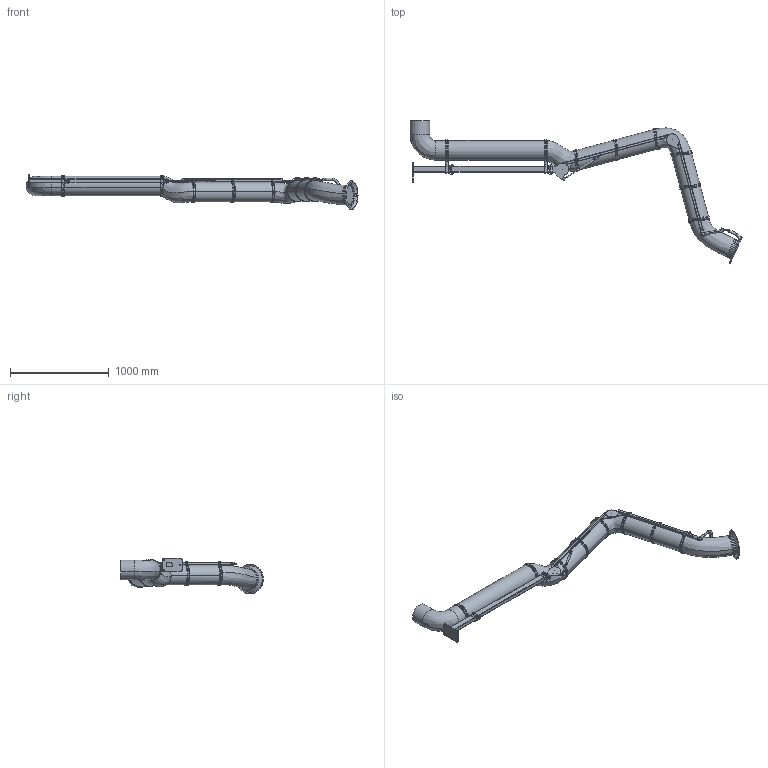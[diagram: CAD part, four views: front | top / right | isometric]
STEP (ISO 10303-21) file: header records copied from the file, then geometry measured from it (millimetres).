
FILE_DESCRIPTION((''),'2;1');
FILE_NAME('PSR_4000-200_EXC','2022-10-04T13:24:03',('Tomas Bellgran'),(''),'CREO PARAMETRIC BY PTC INC, 2018260','CREO PARAMETRIC BY PTC INC, 2018260','');
FILE_SCHEMA(('AUTOMOTIVE_DESIGN { 1 0 10303 214 1 1 1 1 }'));
Length unit declared in the file: millimetre
Products named in the file (34): 141558; 141580; 141581; 122701; 141514; 141560; 141582; 141587; 141524; 121391; 131150_LIGHT; 139383_LIGHT; 131151_LIGHT; 131173_LIGHT; 144356; 141589; 134343_AF0; G_P136_WELD-REF; 141590; 120626; 122750_LIGHT; 122717_LIGHT; 120127_COMPL_LIGHT; 130317; ROD_STAB_8-160-REF; 131095; 130322_AF9; 131145; 147057_EXC; 124460; 107526-11; 121000_LIGHT; 107526-20; PSR_4000-200_EXC
Assembly tree (52 placements, depth 3):
  PSR_4000-200_EXC
    141514
      141558
      141580
      141581
      122701
    141524
      141560
      141582
      141587
    121391  x4
    131150_LIGHT
    131173_LIGHT
      139383_LIGHT
      131151_LIGHT
    144356  x2
    141590
      141589
      134343_AF0
      G_P136_WELD-REF
    120626
    122750_LIGHT
    122717_LIGHT
    120127_COMPL_LIGHT  x2
    130322_AF9
      130317
      ROD_STAB_8-160-REF
      131095  x2
    131145  x2
    147057_EXC
    124460  x6
    107526-11  x6
    121000_LIGHT  x2
    107526-20  x2
Bounding box: 3357.1 x 1443.34 x 362.95 mm (x, y, z)
Volume: 138135723 mm3; surface area: 3954100.9 mm2
Topology: 47 solids, 47 shells, 1280 faces, 3108 edges, 1927 vertices
Faces by surface type: plane 515, cylinder 381, bspline 286, extrusion 36, cone 34, torus 24, sphere 4
Entity records: 45460 total; most frequent: CARTESIAN_POINT 17921, DIRECTION 3483, ORIENTED_EDGE 3432, PRESENTATION_STYLE_ASSIGNMENT 2275, STYLED_ITEM 2252, CURVE_STYLE 1734, EDGE_CURVE 1716, AXIS2_PLACEMENT_3D 1306
